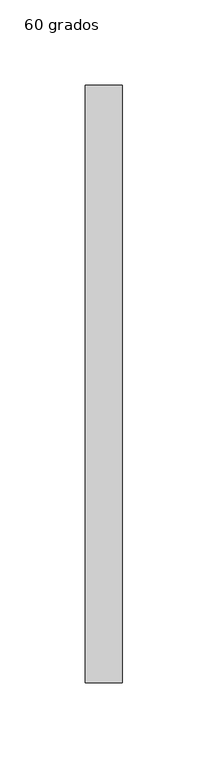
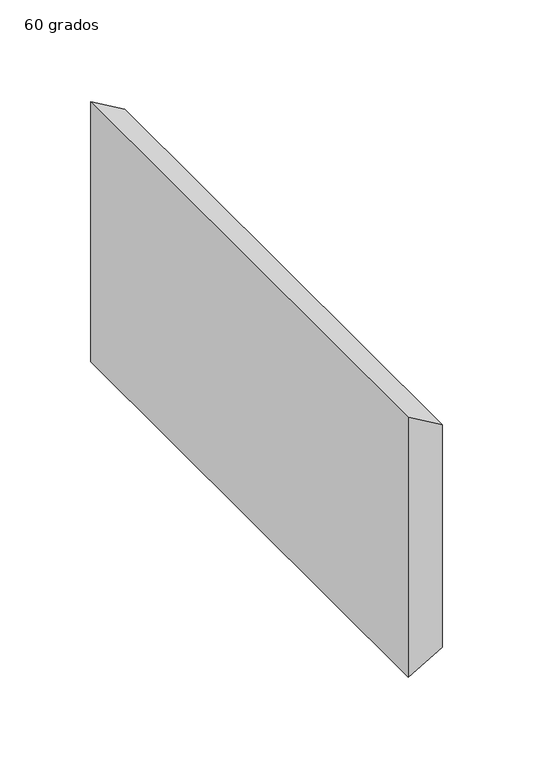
"""IFC4 building model written with IfcOpenShell, lengths in millimetres: duct fitting geometry, M_Transición rectangular - Ángulo : 60 grados."""

import ifcopenshell
import ifcopenshell.guid

model = None  # the IFC model being written
_history = None  # IfcOwnerHistory: only IFC2X3 demands one
_inside = {}  # id of a spatial element -> (the spatial element, [elements in it])
_under = {}  # id of a project, library or spatial element -> (it, [spatial elements below it])
_declared = {}  # id of a project -> (the project, [libraries it declares])
_typed = {}  # id of a type object -> (the type object, [elements of that type])
_made_of = {}  # id of a material, layer set ... -> (it, [elements and type objects made of it])


def new_model(schema):
    """Start an empty IFC model of exactly this schema.

    Asked for "IFC4X3", IfcOpenShell would pick the latest addendum, in which some entities
    have other attributes; the version numbers below select the first issue.
    IFC2X3 requires an IfcOwnerHistory on every rooted entity: one is made here for all.
    """
    global model, _history
    if schema == "IFC4X3":
        model = ifcopenshell.file(schema_version=(4, 3, 0, 0))
    else:
        model = ifcopenshell.file(schema=schema)
    _inside.clear()
    _under.clear()
    _declared.clear()
    _typed.clear()
    _made_of.clear()
    _history = None
    if model.schema == "IFC2X3":
        org = make("IfcOrganization", Name="unknown")
        user = make(
            "IfcPersonAndOrganization",
            ThePerson=make("IfcPerson", FamilyName="unknown"),
            TheOrganization=org,
        )
        app = make(
            "IfcApplication",
            ApplicationDeveloper=org,
            Version="unknown",
            ApplicationFullName="unknown",
            ApplicationIdentifier="unknown",
        )
        _history = make(
            "IfcOwnerHistory",
            OwningUser=user,
            OwningApplication=app,
            ChangeAction="ADDED",
            CreationDate=0,
        )
    return model


def make(cls, **values):
    """One entity of the class cls with the attributes given. An attribute that is None is left unset."""
    return model.create_entity(
        cls, **{name: value for name, value in values.items() if value is not None}
    )


def rooted(cls, **values):
    """An entity with a GlobalId (a new one), such as an element, a storey or a relation."""
    return make(cls, GlobalId=ifcopenshell.guid.new(), OwnerHistory=_history, **values)


def si_unit(unit_type, name, prefix=None):
    """IfcSIUnit, for example si_unit("LENGTHUNIT", "METRE", prefix="MILLI")."""
    return make("IfcSIUnit", UnitType=unit_type, Prefix=prefix, Name=name)


def assignment(units):
    """IfcUnitAssignment: the units of a project."""
    return None if units is None else make("IfcUnitAssignment", Units=units)


def point(xyz):
    """IfcCartesianPoint."""
    return None if xyz is None else make("IfcCartesianPoint", Coordinates=xyz)


def direction(xyz):
    """IfcDirection."""
    return None if xyz is None else make("IfcDirection", DirectionRatios=xyz)


def frame(location, z_axis=None, x_axis=None):
    """IfcAxis2Placement3D, a coordinate frame: its origin and axes. An axis left out is left unset."""
    return make(
        "IfcAxis2Placement3D",
        Location=point(location),
        Axis=direction(z_axis),
        RefDirection=direction(x_axis),
    )


def origin():
    """The frame at (0, 0, 0) with its axes left unset."""
    return frame((0.0, 0.0, 0.0))


def place(relative_to, where):
    """IfcLocalPlacement: puts the frame where relative to a parent placement (None: the world)."""
    return make(
        "IfcLocalPlacement", PlacementRelTo=relative_to, RelativePlacement=where
    )


def context(
    kind, dimensions, precision=None, world=None, true_north=None, identifier=None
):
    """IfcGeometricRepresentationContext, for example the 3D "Model" context."""
    return make(
        "IfcGeometricRepresentationContext",
        ContextIdentifier=identifier,
        ContextType=kind,
        CoordinateSpaceDimension=dimensions,
        Precision=precision,
        WorldCoordinateSystem=world,
        TrueNorth=true_north,
    )


def project(units=None, contexts=None):
    """IfcProject with its units and contexts."""
    return rooted(
        "IfcProject",
        Name="project",
        RepresentationContexts=contexts,
        UnitsInContext=assignment(units),
    )


def spatial(cls, under=None, at=None, **own):
    """A site, building, storey or space (cls), placed at a placement, below another one or the project."""
    s = rooted(cls, ObjectPlacement=at, **own)
    if under is not None:
        _under.setdefault(under.id(), (under, []))[1].append(s)
    return s


def polyline(points):
    """IfcPolyline through the points."""
    return make("IfcPolyline", Points=[point(p) for p in points])


def outline(outer, holes=None, kind="AREA"):
    """IfcArbitraryClosedProfileDef: a profile drawn as a closed curve; with holes, ...WithVoids."""
    if holes is None:
        return make("IfcArbitraryClosedProfileDef", ProfileType=kind, OuterCurve=outer)
    return make(
        "IfcArbitraryProfileDefWithVoids",
        ProfileType=kind,
        OuterCurve=outer,
        InnerCurves=holes,
    )


def extrude(swept, where, along, depth):
    """IfcExtrudedAreaSolid: the profile swept, set in the frame where, extruded along a direction by depth."""
    return make(
        "IfcExtrudedAreaSolid",
        SweptArea=swept,
        Position=where,
        ExtrudedDirection=direction(along),
        Depth=depth,
    )


def shape(context_of_items, identifier, shape_type, items):
    """IfcShapeRepresentation: the items that make up one representation, for example the "Body"."""
    return make(
        "IfcShapeRepresentation",
        ContextOfItems=context_of_items,
        RepresentationIdentifier=identifier,
        RepresentationType=shape_type,
        Items=items,
    )


def source(mapping_origin, context_of_items, identifier, shape_type, items):
    """IfcRepresentationMap: a shape defined once, which mapped items show again and again."""
    return make(
        "IfcRepresentationMap",
        MappingOrigin=mapping_origin,
        MappedRepresentation=shape(context_of_items, identifier, shape_type, items),
    )


def transform(
    local_origin,
    x_axis=None,
    y_axis=None,
    z_axis=None,
    scale=None,
    scale2=None,
    scale3=None,
    uniform=True,
):
    """IfcCartesianTransformationOperator3D, or its non-uniform kind. x_axis, y_axis, z_axis: its Axis1, 2, 3."""
    if uniform:
        return make(
            "IfcCartesianTransformationOperator3D",
            Axis1=direction(x_axis),
            Axis2=direction(y_axis),
            LocalOrigin=point(local_origin),
            Scale=scale,
            Axis3=direction(z_axis),
        )
    return make(
        "IfcCartesianTransformationOperator3DnonUniform",
        Axis1=direction(x_axis),
        Axis2=direction(y_axis),
        LocalOrigin=point(local_origin),
        Scale=scale,
        Axis3=direction(z_axis),
        Scale2=scale2,
        Scale3=scale3,
    )


def mapped(mapping_source, mapping_target):
    """IfcMappedItem: shows the shape of a source again, moved by a transform."""
    return make(
        "IfcMappedItem", MappingSource=mapping_source, MappingTarget=mapping_target
    )


def made_of(thing, what):
    """Note that an element or type object is made of a material, layer set ...; save() writes the relation."""
    if what is not None:
        _made_of.setdefault(what.id(), (what, []))[1].append(thing)
    return thing


def element(
    cls,
    number,
    at=None,
    inside=None,
    cuts=None,
    type_object=None,
    material=None,
    context=None,
    identifier="Body",
    shape_type=None,
    held_by="IfcProductDefinitionShape",
    body=None,
    shapes=None,
    **own,
):
    """One element of the class cls, such as IfcWall. Its Tag is "e" and its number.

    at: its placement. inside: the storey or other place that contains it. cuts: it is an
    opening in that element (IfcRelVoidsElement). A single representation is given by context,
    identifier, shape_type and body (its items); several are given by shapes. held_by: the class
    of the entity that holds the representations. save() writes the other relations.
    """
    e = rooted(cls, Tag="e%d" % number, ObjectPlacement=at, **own)
    if body is not None:
        shapes = [shape(context, identifier, shape_type, body)]
    if shapes is not None:
        e.Representation = make(held_by, Representations=shapes)
    if inside is not None:
        _inside.setdefault(inside.id(), (inside, []))[1].append(e)
    if cuts is not None:
        rooted(
            "IfcRelVoidsElement", RelatingBuildingElement=cuts, RelatedOpeningElement=e
        )
    if type_object is not None:
        _typed.setdefault(type_object.id(), (type_object, []))[1].append(e)
    return made_of(e, material)


def aggregate(whole, parts):
    """IfcRelAggregates: a whole, such as a stair, and the parts it consists of."""
    return rooted("IfcRelAggregates", RelatingObject=whole, RelatedObjects=parts)


def save(model, path):
    """Write the relations noted so far, then the file.

    IfcRelAggregates (storeys below a building ...), IfcRelContainedInSpatialStructure (elements
    in a storey), IfcRelDefinesByType, IfcRelAssociatesMaterial and IfcRelDeclares: one each for
    every whole, place, type object, material and project.
    """
    for whole, parts in _under.values():
        aggregate(whole, parts)
    for where, things in _inside.values():
        rooted(
            "IfcRelContainedInSpatialStructure",
            RelatedElements=things,
            RelatingStructure=where,
        )
    for kind, things in _typed.values():
        rooted("IfcRelDefinesByType", RelatedObjects=things, RelatingType=kind)
    for what, things in _made_of.values():
        rooted("IfcRelAssociatesMaterial", RelatedObjects=things, RelatingMaterial=what)
    for by, libraries in _declared.values():
        rooted("IfcRelDeclares", RelatingContext=by, RelatedDefinitions=libraries)
    model.write(path)


def duct_fitting_60_grados_e2a7f31a(model_context):
    return source(origin(), model_context, "Body", "SweptSolid", [
        extrude(outline(polyline([(87.5, 0.0), (-87.5, 0.0), (-75.0, 21.6506351), (75.0, 21.6506351), (87.5, 0.0)])), frame((0.0, -175.0, 0.0), z_axis=(0.0, 1.0, 0.0), x_axis=(0.0, 0.0, 1.0)), (0.0, 0.0, 1.0), 350.0),
    ])


if __name__ == "__main__":
    model = new_model("IFC4")
    model_context = context("Model", 3, world=origin())
    ifc_project = project(units=[si_unit("LENGTHUNIT", "METRE", prefix="MILLI")], contexts=[model_context])
    site = spatial("IfcSite", under=ifc_project)
    building = spatial("IfcBuilding", under=site)
    placement = place(None, origin())
    duct_fitting_60_grados_shape = duct_fitting_60_grados_e2a7f31a(model_context)
    element("IfcDuctFitting", 1, ObjectType="M_Transición rectangular - Ángulo : 60 grados", at=placement, inside=building, context=model_context, shape_type="MappedRepresentation", body=[
        mapped(duct_fitting_60_grados_shape, transform((0.0, 0.0, 0.0), x_axis=(1.0, 0.0, 0.0), y_axis=(0.0, 1.0, 0.0), z_axis=(0.0, 0.0, 1.0))),
    ])
    save(model, "model.ifc")
